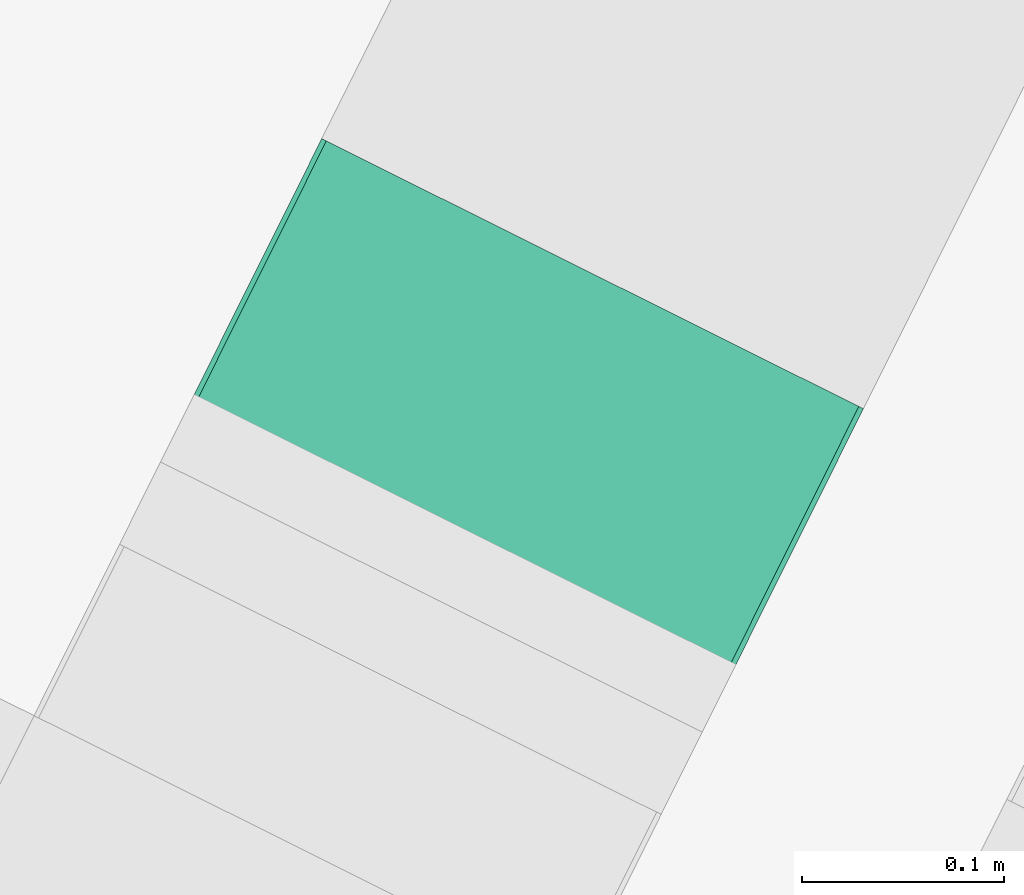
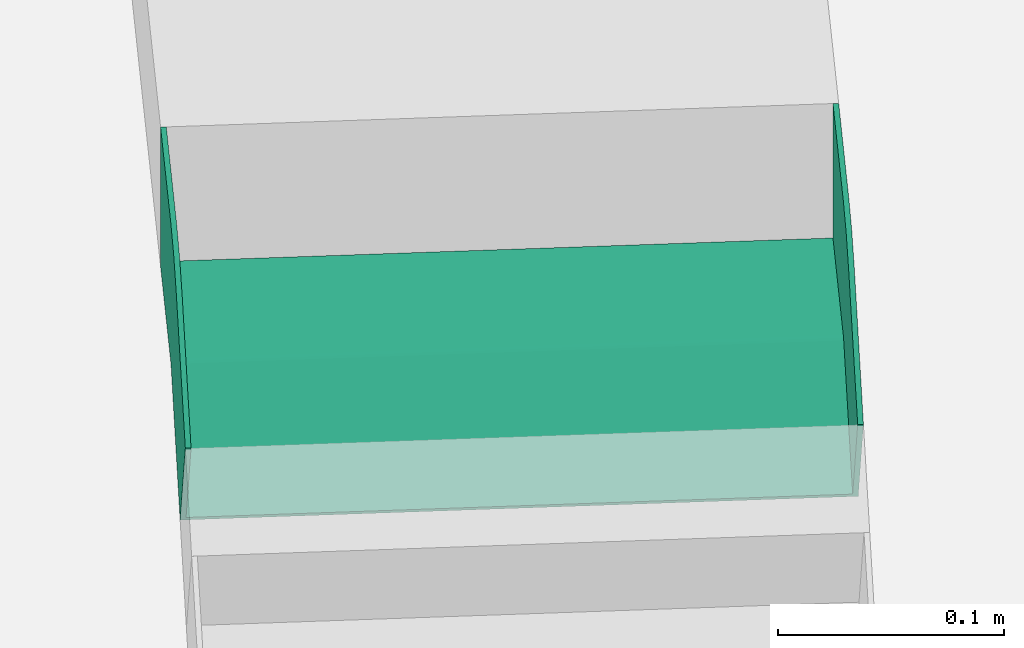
# One storey, part 82 of 91: 1 flow fitting.
"""IFC2X3 building model written with IfcOpenShell, lengths in metres."""

from ifc_helpers import new_model, entity, si_unit, converted_unit, derived_unit, direction, frame, origin, place, context, subcontext, project, spatial, faceted_brep, source, transform, mapped, type_object, type_shapes, element, save


model = new_model("IFC2X3")

# Units and contexts
model_context = context("Model", 3, precision=1e-05, world=origin(), true_north=direction((0.894925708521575, 0.446215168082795)))
context_of_model = context(None, 3, precision=1e-05, world=origin(), true_north=direction((0.894925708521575, 0.446215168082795)))
body_context = subcontext(model_context, "Body", "Model", "MODEL_VIEW")
ifc_project = project(units=[si_unit("LENGTHUNIT", "METRE"), si_unit("AREAUNIT", "SQUARE_METRE"), si_unit("VOLUMEUNIT", "CUBIC_METRE"), converted_unit("PLANEANGLEUNIT", "DEGREE", entity("IfcRatioMeasure", 0.0174532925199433), si_unit("PLANEANGLEUNIT", "RADIAN"), dimensions=[0, 0, 0, 0, 0, 0, 0]), si_unit("MASSUNIT", "GRAM", prefix="KILO"), si_unit("TIMEUNIT", "SECOND"), si_unit("FREQUENCYUNIT", "HERTZ"), si_unit("THERMODYNAMICTEMPERATUREUNIT", "DEGREE_CELSIUS"), derived_unit("THERMALTRANSMITTANCEUNIT", [(si_unit("MASSUNIT", "GRAM", prefix="KILO"), 1), (si_unit("THERMODYNAMICTEMPERATUREUNIT", "KELVIN"), -1), (si_unit("TIMEUNIT", "SECOND"), -3)]), derived_unit("VOLUMETRICFLOWRATEUNIT", [(si_unit("LENGTHUNIT", "METRE"), 3), (si_unit("TIMEUNIT", "SECOND"), -1)]), si_unit("ELECTRICCURRENTUNIT", "AMPERE"), si_unit("ELECTRICVOLTAGEUNIT", "VOLT"), si_unit("POWERUNIT", "WATT"), si_unit("FORCEUNIT", "NEWTON", prefix="KILO"), si_unit("ILLUMINANCEUNIT", "LUX"), si_unit("LUMINOUSFLUXUNIT", "LUMEN"), si_unit("LUMINOUSINTENSITYUNIT", "CANDELA"), si_unit("PRESSUREUNIT", "PASCAL")], contexts=[model_context, context_of_model])

# Site, building, storey
site_placement = place(None, frame((218.228324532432, 584.720189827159, 0.0), z_axis=(0.0, 0.0, 1.0), x_axis=(0.446215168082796, 0.894925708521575, 0.0)))
site = spatial("IfcSite", under=ifc_project, at=site_placement, Name="Default", CompositionType="ELEMENT")
building_placement = place(site_placement, origin())
building = spatial("IfcBuilding", under=site, at=building_placement, CompositionType="ELEMENT")
storey_placement = place(building_placement, origin())
storey = spatial("IfcBuildingStorey", under=building, at=storey_placement, Name="0 - Piano Terra", CompositionType="ELEMENT", Elevation=0.0)

# Flow fitting
cable_carrier_fitting_type = type_object("IfcCableCarrierFittingType", Name="Standard", PredefinedType="NOTDEFINED")
shared_shape = source(origin(), body_context, "Body", "Brep", [
    faceted_brep([(-0.0858988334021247, -0.0375000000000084, -0.150000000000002), (-0.0858988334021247, -0.0375000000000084, -0.147460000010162), (-0.0858988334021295, 0.0349600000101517, -0.147460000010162), (-0.0858988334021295, 0.0349600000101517, 0.147460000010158), (-0.0858988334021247, -0.0375000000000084, 0.147460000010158), (-0.0858988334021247, -0.0375000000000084, 0.149999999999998), (-0.0858988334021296, 0.0374999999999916, 0.149999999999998), (-0.0858988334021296, 0.0374999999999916, -0.150000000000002), (0.0556405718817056, 0.0754253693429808, -0.150000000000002), (0.0556405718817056, 0.0754253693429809, 0.149999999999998), (0.0931405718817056, 0.0104734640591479, 0.149999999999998), (0.0931405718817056, 0.0104734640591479, 0.147460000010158), (0.0569105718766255, 0.0732256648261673, 0.147460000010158), (0.0569105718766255, 0.0732256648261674, -0.147460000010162), (0.0931405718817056, 0.0104734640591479, -0.147460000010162), (0.0931405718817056, 0.0104734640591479, -0.150000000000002), (-0.0108988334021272, -0.0375000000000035, 0.149999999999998), (-0.000782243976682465, -0.0361681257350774, 0.149999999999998), (0.0093343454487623, -0.0348362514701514, 0.149999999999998), (0.0187615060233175, -0.0309313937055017, 0.149999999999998), (0.0281886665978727, -0.027026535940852, 0.149999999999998), (-0.00931133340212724, 0.0379253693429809, 0.149999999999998), (-0.0100770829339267, 0.0376081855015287, 0.149999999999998), (-0.0108988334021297, 0.0374999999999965, 0.149999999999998), (-0.0108988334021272, 0.0374999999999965, 0.142222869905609), (-0.0108988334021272, 0.0374999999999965, 0.136736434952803), (-0.0108988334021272, 0.0374999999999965, 0.131249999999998), (-0.0108988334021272, 0.0374999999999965, 0.121874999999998), (-0.0108988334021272, 0.0374999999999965, 0.112499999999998), (-0.0108988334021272, 0.0374999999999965, 0.103124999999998), (-0.0108988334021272, 0.0374999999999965, 0.0937499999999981), (-0.0108988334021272, 0.0374999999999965, 0.0890624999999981), (-0.0108988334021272, 0.0374999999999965, 0.0843749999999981), (-0.0108988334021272, 0.0374999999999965, 0.0749999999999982), (-0.0108988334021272, 0.0374999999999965, 0.0656249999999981), (-0.0108988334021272, 0.0374999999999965, 0.0562499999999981), (-0.0108988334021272, 0.0374999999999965, 0.0468749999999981), (-0.0108988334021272, 0.0374999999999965, 0.0374999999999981), (-0.0108988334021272, 0.0374999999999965, 0.0328124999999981), (-0.0108988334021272, 0.0374999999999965, 0.0281249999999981), (-0.0108988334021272, 0.0374999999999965, 0.0187499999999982), (-0.0108988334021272, 0.0374999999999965, 0.00937499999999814), (-0.0108988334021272, 0.0374999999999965, 0.00468749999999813), (-0.0108988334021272, 0.0374999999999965, 0.0), (-0.0108988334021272, 0.0374999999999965, -0.00548643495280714), (-0.0108988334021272, 0.0374999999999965, -0.0109728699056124), (-0.0108988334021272, 0.0374999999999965, -0.0164593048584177), (-0.0108988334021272, 0.0374999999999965, -0.021945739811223), (-0.0108988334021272, 0.0374999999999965, -0.0274321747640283), (-0.0108988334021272, 0.0374999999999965, -0.0329186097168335), (-0.0108988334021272, 0.0374999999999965, -0.0384050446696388), (-0.0108988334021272, 0.0374999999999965, -0.0438914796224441), (-0.0108988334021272, 0.0374999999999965, -0.0493779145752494), (-0.0108988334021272, 0.0374999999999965, -0.0548643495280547), (-0.0108988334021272, 0.0374999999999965, -0.06035078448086), (-0.0108988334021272, 0.0374999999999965, -0.0658372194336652), (-0.0108988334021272, 0.0374999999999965, -0.0713236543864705), (-0.0108988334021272, 0.0374999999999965, -0.0768100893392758), (-0.0108988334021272, 0.0374999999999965, -0.0822965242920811), (-0.0108988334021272, 0.0374999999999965, -0.0877829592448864), (-0.0108988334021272, 0.0374999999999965, -0.0955600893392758), (-0.0108988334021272, 0.0374999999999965, -0.103337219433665), (-0.0108988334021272, 0.0374999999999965, -0.111114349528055), (-0.0108988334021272, 0.0374999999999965, -0.118891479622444), (-0.0108988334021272, 0.0374999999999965, -0.126668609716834), (-0.0108988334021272, 0.0374999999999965, -0.134445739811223), (-0.0108988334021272, 0.0374999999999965, -0.142222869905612), (-0.0108988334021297, 0.0374999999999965, -0.150000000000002), (-0.0100770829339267, 0.0376081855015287, -0.150000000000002), (-0.00931133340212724, 0.0379253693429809, -0.150000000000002), (0.0281886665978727, -0.027026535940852, -0.150000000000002), (0.0187615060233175, -0.0309313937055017, -0.150000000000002), (0.0093343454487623, -0.0348362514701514, -0.150000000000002), (-0.00136101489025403, -0.0362443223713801, -0.150000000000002), (-0.0108988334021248, -0.0375000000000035, -0.150000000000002), (-0.0108988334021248, -0.0375000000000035, -0.147460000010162), (-0.0108988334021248, -0.0375000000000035, 0.147460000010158), (-0.000782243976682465, -0.0361681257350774, -0.147460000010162), (0.0093343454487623, -0.0348362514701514, -0.147460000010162), (0.0187615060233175, -0.0309313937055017, -0.147460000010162), (0.0281886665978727, -0.027026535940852, -0.147460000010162), (-0.00804133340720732, 0.0357256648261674, -0.147460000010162), (-0.00941968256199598, 0.0351547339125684, -0.147460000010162), (-0.0108988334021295, 0.0349600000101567, -0.147460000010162), (-0.0108988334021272, 0.0349600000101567, -0.137025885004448), (-0.0108988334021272, 0.0349600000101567, -0.126591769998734), (-0.0108988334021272, 0.0349600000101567, -0.11615765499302), (-0.0108988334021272, 0.0349600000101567, -0.105723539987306), (-0.0108988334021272, 0.0349600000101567, -0.0952894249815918), (-0.0108988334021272, 0.0349600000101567, -0.0848553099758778), (-0.0108988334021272, 0.0349600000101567, -0.0744211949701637), (-0.0108988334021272, 0.0349600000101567, -0.0639870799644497), (-0.0108988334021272, 0.0349600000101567, -0.0479903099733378), (-0.0108988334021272, 0.0349600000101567, -0.0319935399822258), (-0.0108988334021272, 0.0349600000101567, -0.0159967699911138), (-0.0108988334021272, 0.0349600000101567, 0.0), (-0.0108988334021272, 0.0349600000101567, 0.0184325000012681), (-0.0108988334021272, 0.0349600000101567, 0.0368650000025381), (-0.0108988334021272, 0.0349600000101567, 0.0552975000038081), (-0.0108988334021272, 0.0349600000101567, 0.0737300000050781), (-0.0108988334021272, 0.0349600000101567, 0.0921625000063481), (-0.0108988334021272, 0.0349600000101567, 0.110595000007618), (-0.0108988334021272, 0.0349600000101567, 0.12659176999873), (-0.0108988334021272, 0.0349600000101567, 0.137025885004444), (-0.0108988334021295, 0.0349600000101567, 0.147460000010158), (-0.00941968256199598, 0.0351547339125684, 0.147460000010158), (-0.00804133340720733, 0.0357256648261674, 0.147460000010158), (0.0281886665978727, -0.027026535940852, 0.147460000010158), (0.0193008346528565, -0.0307079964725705, 0.147460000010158), (0.0093343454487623, -0.0348362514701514, 0.147460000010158), (-0.000782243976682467, -0.0361681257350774, 0.147460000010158), (-0.0100160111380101, 0.0376252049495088, 0.0878571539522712), (-0.00931133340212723, 0.0379253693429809, -0.0786763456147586), (-0.0101159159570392, 0.0375980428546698, -0.0740668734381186), (-0.00931133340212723, 0.0379253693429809, -0.0677034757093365), (-0.00931133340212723, 0.0379253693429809, -0.0731899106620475), (-0.00931133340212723, 0.0379253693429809, -0.0512441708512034), (-0.00931133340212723, 0.0379253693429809, -0.0567306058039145), (-0.0101159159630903, 0.0375980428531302, -0.052121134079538), (-0.00931133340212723, 0.0379253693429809, -0.0457577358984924), (-0.0100430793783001, 0.0376174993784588, 0.017385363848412), (-0.0100062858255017, 0.0376280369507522, 0.0107980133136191), (-0.00999532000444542, 0.0376312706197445, 0.122780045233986), (-0.0101719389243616, 0.0375843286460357, 0.0236284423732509), (-0.00931133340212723, 0.0379253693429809, 0.0200794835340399), (-0.00931133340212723, 0.0379253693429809, -0.146111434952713), (-0.00931133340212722, 0.0379253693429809, 0.134445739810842), (-0.0100770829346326, 0.0376081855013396, 0.138334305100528), (-0.00931133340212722, 0.0379253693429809, 0.14222286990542), (-0.0100060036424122, 0.0376281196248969, -0.142569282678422), (-0.010097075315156, 0.0376028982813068, 0.0605630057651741), (-0.00931133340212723, 0.0379253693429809, 0.0566744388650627), (-0.0100663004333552, 0.0376110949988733, 0.054247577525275), (-0.0100389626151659, 0.0376186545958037, -0.119824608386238), (-0.0101157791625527, 0.0375980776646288, -0.129790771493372), (-0.01011591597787, 0.0375980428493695, -0.0301753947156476), (-0.0100662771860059, 0.0376111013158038, 0.0824060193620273), (-0.00931133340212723, 0.0379253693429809, 0.0800058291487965), (-0.0099977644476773, 0.0376305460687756, 0.0761172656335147), (-0.0100563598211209, 0.0376138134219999, 0.0388108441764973), (-0.00931133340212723, 0.0379253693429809, 0.0411201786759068), (-0.00931133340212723, 0.0379253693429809, 0.0333430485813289), (-0.00931133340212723, 0.0379253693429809, -0.0347848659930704), (-0.00931133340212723, 0.0379253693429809, -0.0238119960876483), (-0.00931133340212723, 0.0379253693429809, -0.0292984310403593), (-0.00931133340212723, 0.0379253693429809, -0.0128391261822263), (-0.0101159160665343, 0.0375980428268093, -0.00822965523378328), (-0.00931133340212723, 0.0379253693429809, -0.00186625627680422), (-0.00931133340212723, 0.0379253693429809, -0.00735269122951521), (-0.010022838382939, 0.0376232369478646, 0.144167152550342), (-0.00931133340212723, 0.0379253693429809, 0.0488973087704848), (-0.0100105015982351, 0.0376268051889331, 0.0450087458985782), (-0.0100992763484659, 0.0376023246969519, 0.00234375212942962), (-0.0101111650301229, 0.0375992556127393, 0.06937590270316), (-0.00931133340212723, 0.0379253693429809, 0.0145930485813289), (-0.0100494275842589, 0.0376157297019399, -0.136209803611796), (-0.0101258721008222, 0.0375955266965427, -0.0371719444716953), (-0.00931133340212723, 0.0379253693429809, -0.0402713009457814), (-0.0100191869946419, 0.0376242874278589, -0.0434785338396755), (-0.0101258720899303, 0.0375955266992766, -0.0591176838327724), (-0.0100602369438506, 0.0376127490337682, -0.0934055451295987), (-0.0100098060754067, 0.0376270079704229, -0.11311245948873), (-0.010067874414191, 0.0376106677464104, 0.0994486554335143), (-0.0100492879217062, 0.0376157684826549, 0.0933153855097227), (-0.00931133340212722, 0.0379253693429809, 0.111114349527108), (-0.00931133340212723, 0.0379253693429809, 0.10333721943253), (-0.010108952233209, 0.0375998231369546, 0.109805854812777), (-0.0100522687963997, 0.0376149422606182, 0.132170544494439), (-0.00931133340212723, 0.0379253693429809, -0.13902713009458), (-0.010106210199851, 0.0376005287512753, 0.116092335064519), (-0.00931133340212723, 0.0379253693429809, -0.133540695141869), (-0.0101258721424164, 0.0375955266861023, -0.0152262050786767), (-0.0100191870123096, 0.0376242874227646, -0.0215327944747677), (-0.00931133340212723, 0.0379253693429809, -0.0183255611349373), (-0.0101258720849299, 0.0375955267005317, -0.0810634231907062), (-0.0100191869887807, 0.037624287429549, -0.0654242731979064), (-0.00931133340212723, 0.0379253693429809, -0.0622170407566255), (-0.00931133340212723, 0.0379253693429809, -0.0896492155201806), (-0.00931133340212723, 0.0379253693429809, -0.0951356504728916), (-0.0100191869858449, 0.0376242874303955, -0.0873700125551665), (-0.00931133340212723, 0.0379253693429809, -0.0841627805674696), (-0.00931133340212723, 0.0379253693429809, -0.122567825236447), (-0.00931133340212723, 0.0379253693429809, -0.117081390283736), (-0.0101042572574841, 0.0376010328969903, -0.105576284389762), (-0.00931133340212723, 0.0379253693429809, -0.106108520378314), (-0.00931133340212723, 0.0379253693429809, -0.111594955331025), (-0.00931133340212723, 0.0379253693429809, -0.100622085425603), (-0.00931133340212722, 0.0379253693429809, 0.126668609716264), (-0.00931133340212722, 0.0379253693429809, 0.118891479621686), (-0.00931133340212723, 0.0379253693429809, -0.128054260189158), (-0.00931133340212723, 0.0379253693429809, 0.0955600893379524), (-0.00931133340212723, 0.0379253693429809, 0.0877829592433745), (-0.00931133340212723, 0.0379253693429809, 0.0722286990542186), (-0.00931133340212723, 0.0379253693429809, 0.0644515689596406), (-0.0100612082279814, 0.0376124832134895, 0.0304687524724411), (-0.00931133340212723, 0.0379253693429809, 0.0255659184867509), (-0.00931133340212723, 0.0379253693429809, 0.00910661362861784), (-0.00931133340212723, 0.0379253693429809, 0.00362017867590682), (-0.0100571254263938, 0.0376136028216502, -0.0994486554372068), (-0.00941968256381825, 0.0351547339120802, -0.0559886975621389), (-0.00804133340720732, 0.0357256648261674, -0.0535529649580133), (-0.00943516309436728, 0.0351506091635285, -0.0450563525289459), (-0.00941968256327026, 0.035154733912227, -0.0670727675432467), (-0.00941968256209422, 0.0351547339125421, -0.131808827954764), (-0.00941968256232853, 0.0351547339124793, -0.118338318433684), (-0.00941968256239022, 0.0351547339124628, -0.107538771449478), (-0.00941968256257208, 0.0351547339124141, -0.0931087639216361), (-0.00941968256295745, 0.0351547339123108, -0.0796382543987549), (-0.00804133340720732, 0.0357256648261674, 0.131463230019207), (-0.00951383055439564, 0.0351303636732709, 0.119704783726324), (-0.00804133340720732, 0.0357256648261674, 0.115466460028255), (-0.009539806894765, 0.035123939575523, 0.0276487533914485), (-0.00938820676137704, 0.0351632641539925, 0.0142687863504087), (-0.00944772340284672, 0.0351472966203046, 0.0964175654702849), (-0.00938732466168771, 0.0351635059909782, 0.00298298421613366), (-0.00804133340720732, 0.0357256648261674, -0.137025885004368), (-0.00804133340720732, 0.0357256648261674, -0.126591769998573), (-0.00804133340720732, 0.0357256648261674, -0.116157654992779), (-0.00804133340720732, 0.0357256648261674, -0.105723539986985), (-0.00804133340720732, 0.0357256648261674, -0.0952894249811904), (-0.00804133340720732, 0.0357256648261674, -0.0848553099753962), (-0.00804133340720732, 0.0357256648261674, -0.0744211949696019), (-0.00804133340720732, 0.0357256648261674, -0.0639870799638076), (-0.00960988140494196, 0.0351072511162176, 0.0843997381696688), (-0.00931691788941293, 0.0351833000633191, 0.0731869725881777), (-0.00804133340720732, 0.0357256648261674, -0.0326847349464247), (-0.00804133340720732, 0.0357256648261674, -0.0222506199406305), (-0.00939822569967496, 0.0351605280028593, -0.0274676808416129), (-0.00938352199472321, 0.0351645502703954, 0.0609207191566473), (-0.00804133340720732, 0.0357256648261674, 0.0194858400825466), (-0.00804133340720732, 0.0357256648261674, 0.0354826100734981), (-0.0092916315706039, 0.0351906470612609, -0.0159019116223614), (-0.00950624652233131, 0.0351322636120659, 0.131808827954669), (-0.0092516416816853, 0.0352025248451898, 0.107597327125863), (-0.00804133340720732, 0.0357256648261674, 0.0834729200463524), (-0.00804133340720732, 0.0357256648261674, 0.0994696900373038), (-0.00804133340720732, 0.0357256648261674, 0.0674761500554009), (-0.00804133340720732, 0.0357256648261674, -0.043118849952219), (-0.00939896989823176, 0.0351603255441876, 0.0385250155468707), (-0.00953825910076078, 0.0351243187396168, 0.0497283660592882), (-0.00804133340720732, 0.0357256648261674, 0.00905172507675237), (-0.00804133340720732, 0.0357256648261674, -0.0118165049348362), (-0.00804133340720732, 0.0357256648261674, -0.00138238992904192), (-0.00804133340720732, 0.0357256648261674, 0.0514793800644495)], [[[0, 1, 2, 3, 4, 5, 6, 7]], [[8, 9, 10, 11, 12, 13, 14, 15]], [[5, 16, 17, 18, 19, 20, 10, 9, 21, 22, 23, 6]], [[7, 6, 23, 24, 25, 26, 27, 28, 29, 30, 31, 32, 33, 34, 35, 36, 37, 38, 39, 40, 41, 42, 43, 44, 45, 46, 47, 48, 49, 50, 51, 52, 53, 54, 55, 56, 57, 58, 59, 60, 61, 62, 63, 64, 65, 66, 67]], [[7, 67, 68, 69, 8, 15, 70, 71, 72, 73, 74, 0]], [[1, 0, 74, 75]], [[5, 4, 76, 16]], [[1, 75, 77, 78, 79, 80, 14, 13, 81, 82, 83, 2]], [[3, 2, 83, 84, 85, 86, 87, 88, 89, 90, 91, 92, 93, 94, 95, 96, 97, 98, 99, 100, 101, 102, 103, 104]], [[3, 104, 105, 106, 12, 11, 107, 108, 109, 110, 76, 4]], [[31, 111, 32]], [[112, 113, 114, 115]], [[116, 117, 118, 119]], [[57, 56, 113]], [[53, 52, 118]], [[120, 121, 41]], [[122, 27, 26]], [[123, 124, 120]], [[125, 69, 68]], [[126, 127, 128]], [[68, 129, 125]], [[130, 131, 132]], [[133, 134, 64]], [[49, 48, 135]], [[136, 137, 138]], [[139, 140, 141]], [[142, 135, 143, 144]], [[145, 146, 147, 148]], [[149, 128, 127]], [[150, 151, 132]], [[152, 147, 146]], [[33, 153, 34]], [[151, 140, 139]], [[120, 154, 121]], [[129, 66, 155]], [[156, 157, 158]], [[118, 117, 159]], [[59, 160, 60]], [[161, 63, 62]], [[34, 153, 130]], [[162, 163, 30]], [[164, 165, 166]], [[26, 25, 167]], [[129, 168, 125]], [[169, 164, 166]], [[127, 24, 149]], [[155, 134, 170]], [[127, 126, 167]], [[65, 155, 66]], [[149, 24, 23]], [[68, 67, 66]], [[25, 24, 127]], [[149, 22, 21]], [[146, 145, 171]], [[135, 142, 156]], [[172, 171, 173]], [[113, 112, 174]], [[175, 159, 176]], [[177, 178, 160]], [[179, 174, 180]], [[127, 167, 25]], [[155, 168, 129]], [[66, 129, 68]], [[170, 168, 155]], [[133, 181, 134]], [[161, 182, 133]], [[65, 134, 155]], [[183, 161, 62]], [[133, 63, 161]], [[181, 133, 182]], [[63, 133, 64]], [[184, 185, 183, 186]], [[187, 122, 167]], [[42, 152, 44, 43]], [[122, 26, 167]], [[188, 122, 187]], [[169, 122, 188]], [[167, 126, 187]], [[189, 170, 134, 181]], [[28, 27, 169]], [[122, 169, 27]], [[166, 29, 28]], [[166, 28, 169]], [[169, 188, 164]], [[162, 190, 163]], [[190, 162, 165]], [[162, 29, 166]], [[165, 162, 166]], [[29, 162, 30]], [[138, 33, 136]], [[163, 190, 191]], [[32, 111, 136]], [[137, 192, 138]], [[32, 136, 33]], [[136, 191, 137]], [[192, 153, 138]], [[138, 153, 33]], [[131, 130, 193]], [[35, 130, 132]], [[153, 192, 193]], [[31, 30, 163]], [[193, 130, 153]], [[130, 35, 34]], [[191, 136, 111]], [[37, 151, 139]], [[36, 132, 151]], [[36, 35, 132]], [[140, 151, 150]], [[132, 131, 150]], [[36, 151, 37]], [[39, 194, 123]], [[38, 37, 139]], [[38, 194, 39]], [[123, 194, 195]], [[139, 141, 194]], [[139, 194, 38]], [[194, 141, 195]], [[123, 40, 39]], [[40, 123, 120]], [[40, 120, 41]], [[123, 195, 124]], [[42, 41, 121]], [[121, 196, 152]], [[121, 152, 42]], [[128, 149, 21]], [[171, 45, 146]], [[44, 146, 45]], [[48, 47, 46, 172]], [[171, 172, 46]], [[146, 44, 152]], [[152, 196, 197, 147]], [[172, 143, 135]], [[156, 49, 135]], [[172, 135, 48]], [[51, 50, 158, 52]], [[55, 54, 175, 56]], [[156, 158, 50]], [[158, 119, 118]], [[159, 53, 118]], [[158, 118, 52]], [[159, 175, 54]], [[175, 114, 113]], [[174, 57, 113]], [[175, 113, 56]], [[61, 183, 62]], [[59, 58, 179]], [[174, 179, 58]], [[60, 198, 61]], [[179, 177, 160]], [[160, 178, 198]], [[61, 198, 183]], [[198, 186, 183]], [[124, 154, 120]], [[172, 173, 143]], [[158, 157, 119]], [[175, 176, 114]], [[179, 180, 177]], [[185, 161, 183]], [[179, 160, 59]], [[160, 198, 60]], [[121, 154, 196]], [[23, 22, 149]], [[185, 182, 161]], [[145, 173, 171]], [[142, 157, 156]], [[117, 176, 159]], [[112, 180, 174]], [[64, 134, 65]], [[111, 163, 191]], [[163, 111, 31]], [[46, 45, 171]], [[50, 49, 156]], [[54, 53, 159]], [[58, 57, 174]], [[198, 178, 186]], [[77, 75, 74, 73, 72, 78]], [[76, 110, 109, 18, 17, 16]], [[79, 78, 72, 71, 70, 80]], [[109, 108, 107, 20, 19, 18]], [[199, 200, 201]], [[202, 199, 92, 91, 90, 89, 88, 87, 86, 85, 84, 83, 82, 203, 204, 205, 206, 207]], [[105, 104, 103]], [[208, 209, 210]], [[211, 96, 212]], [[213, 101, 100]], [[95, 214, 212]], [[206, 205, 204, 203, 82, 81, 215, 216, 217, 218, 219, 220, 221, 222, 200, 199, 202, 207]], [[106, 105, 208]], [[223, 99, 224]], [[225, 226, 227]], [[99, 228, 224]], [[211, 229, 230]], [[231, 95, 94]], [[94, 227, 231]], [[208, 232, 209]], [[209, 101, 233]], [[105, 103, 232]], [[102, 232, 103]], [[232, 102, 209]], [[105, 232, 208]], [[102, 101, 209]], [[234, 235, 213]], [[233, 213, 235]], [[210, 209, 233]], [[234, 213, 223]], [[235, 210, 233]], [[101, 213, 233]], [[213, 100, 223]], [[100, 99, 223]], [[224, 228, 236]], [[201, 92, 199]], [[223, 224, 234]], [[211, 97, 96]], [[200, 237, 225, 201]], [[97, 211, 238]], [[97, 238, 239]], [[240, 212, 214]], [[229, 212, 240]], [[95, 212, 96]], [[229, 211, 212]], [[238, 211, 230]], [[93, 92, 201]], [[227, 94, 93]], [[227, 201, 225]], [[227, 226, 231]], [[201, 227, 93]], [[231, 226, 241, 242]], [[231, 242, 214]], [[230, 243, 238]], [[243, 228, 239]], [[228, 99, 98]], [[234, 224, 236]], [[239, 228, 98]], [[243, 236, 228]], [[97, 239, 98]], [[243, 239, 238]], [[231, 214, 95]], [[240, 214, 242]], [[9, 8, 69, 125, 168, 170, 189, 181, 182, 185, 184, 186, 178, 177, 180, 112, 115, 114, 176, 117, 116, 119, 157, 142, 144, 143, 173, 145, 148, 147, 197, 196, 154, 124, 195, 141, 140, 150, 131, 193, 192, 137, 191, 190, 165, 164, 188, 187, 126, 128, 21]], [[80, 70, 15, 14]], [[20, 107, 11, 10]], [[12, 106, 208, 210, 235, 234, 236, 243, 230, 229, 240, 242, 241, 226, 225, 237, 200, 222, 221, 220, 219, 218, 217, 216, 215, 81, 13]]]),
])
type_shapes(cable_carrier_fitting_type, [shared_shape])
flow_fitting_placement = place(storey_placement, frame((11.7278665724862, -3.45107899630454, 3.80000000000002), z_axis=(0.0, -1.0, 0.0), x_axis=(-1.0, 0.0, 0.0)))
element("IfcFlowFitting", 1, at=flow_fitting_placement, inside=storey, type_object=cable_carrier_fitting_type, Name="M_Curvatura esterna verticale canale:Standard", ObjectType="Standard", context=body_context, shape_type="MappedRepresentation", body=[
    mapped(shared_shape, transform((0.0, 0.0, 0.0), scale=1.0)),
])

save(model, "model.ifc")
